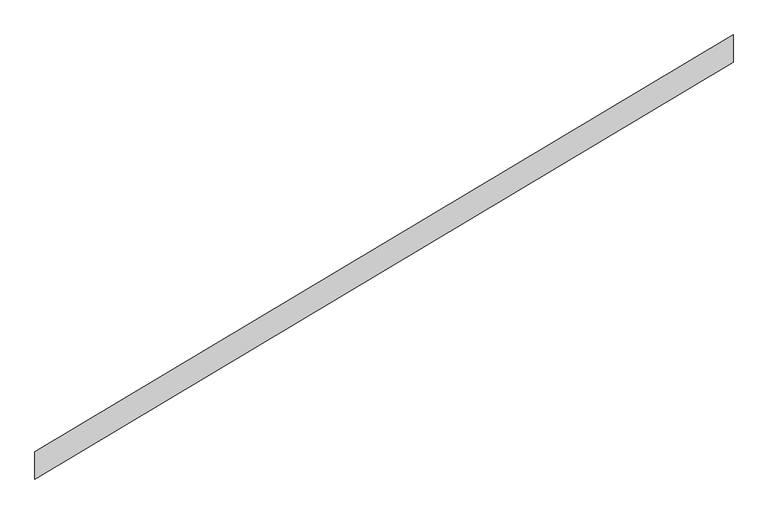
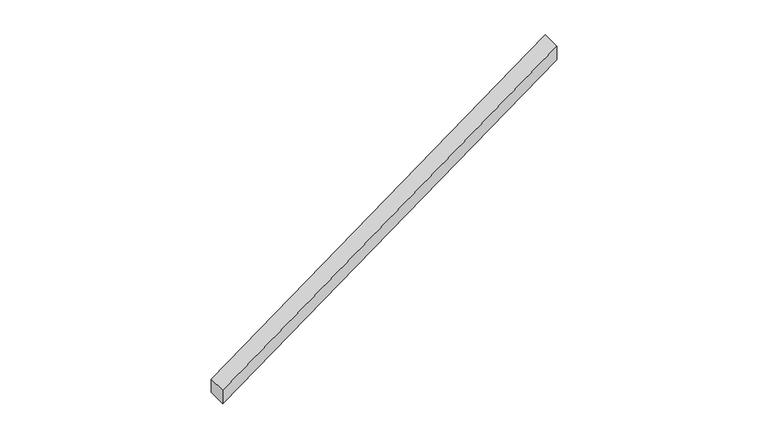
"""IFC4 building model written with IfcOpenShell, lengths in millimetres: proxy geometry, Modelos genéricos 262 : Modelos genéricos 259."""

import ifcopenshell
import ifcopenshell.guid

model = None  # the IFC model being written
_history = None  # IfcOwnerHistory: only IFC2X3 demands one
_inside = {}  # id of a spatial element -> (the spatial element, [elements in it])
_under = {}  # id of a project, library or spatial element -> (it, [spatial elements below it])
_declared = {}  # id of a project -> (the project, [libraries it declares])
_typed = {}  # id of a type object -> (the type object, [elements of that type])
_made_of = {}  # id of a material, layer set ... -> (it, [elements and type objects made of it])


def new_model(schema):
    """Start an empty IFC model of exactly this schema.

    Asked for "IFC4X3", IfcOpenShell would pick the latest addendum, in which some entities
    have other attributes; the version numbers below select the first issue.
    IFC2X3 requires an IfcOwnerHistory on every rooted entity: one is made here for all.
    """
    global model, _history
    if schema == "IFC4X3":
        model = ifcopenshell.file(schema_version=(4, 3, 0, 0))
    else:
        model = ifcopenshell.file(schema=schema)
    _inside.clear()
    _under.clear()
    _declared.clear()
    _typed.clear()
    _made_of.clear()
    _history = None
    if model.schema == "IFC2X3":
        org = make("IfcOrganization", Name="unknown")
        user = make(
            "IfcPersonAndOrganization",
            ThePerson=make("IfcPerson", FamilyName="unknown"),
            TheOrganization=org,
        )
        app = make(
            "IfcApplication",
            ApplicationDeveloper=org,
            Version="unknown",
            ApplicationFullName="unknown",
            ApplicationIdentifier="unknown",
        )
        _history = make(
            "IfcOwnerHistory",
            OwningUser=user,
            OwningApplication=app,
            ChangeAction="ADDED",
            CreationDate=0,
        )
    return model


def make(cls, **values):
    """One entity of the class cls with the attributes given. An attribute that is None is left unset."""
    return model.create_entity(
        cls, **{name: value for name, value in values.items() if value is not None}
    )


def rooted(cls, **values):
    """An entity with a GlobalId (a new one), such as an element, a storey or a relation."""
    return make(cls, GlobalId=ifcopenshell.guid.new(), OwnerHistory=_history, **values)


def si_unit(unit_type, name, prefix=None):
    """IfcSIUnit, for example si_unit("LENGTHUNIT", "METRE", prefix="MILLI")."""
    return make("IfcSIUnit", UnitType=unit_type, Prefix=prefix, Name=name)


def assignment(units):
    """IfcUnitAssignment: the units of a project."""
    return None if units is None else make("IfcUnitAssignment", Units=units)


def point(xyz):
    """IfcCartesianPoint."""
    return None if xyz is None else make("IfcCartesianPoint", Coordinates=xyz)


def direction(xyz):
    """IfcDirection."""
    return None if xyz is None else make("IfcDirection", DirectionRatios=xyz)


def frame(location, z_axis=None, x_axis=None):
    """IfcAxis2Placement3D, a coordinate frame: its origin and axes. An axis left out is left unset."""
    return make(
        "IfcAxis2Placement3D",
        Location=point(location),
        Axis=direction(z_axis),
        RefDirection=direction(x_axis),
    )


def origin():
    """The frame at (0, 0, 0) with its axes left unset."""
    return frame((0.0, 0.0, 0.0))


def place(relative_to, where):
    """IfcLocalPlacement: puts the frame where relative to a parent placement (None: the world)."""
    return make(
        "IfcLocalPlacement", PlacementRelTo=relative_to, RelativePlacement=where
    )


def context(
    kind, dimensions, precision=None, world=None, true_north=None, identifier=None
):
    """IfcGeometricRepresentationContext, for example the 3D "Model" context."""
    return make(
        "IfcGeometricRepresentationContext",
        ContextIdentifier=identifier,
        ContextType=kind,
        CoordinateSpaceDimension=dimensions,
        Precision=precision,
        WorldCoordinateSystem=world,
        TrueNorth=true_north,
    )


def project(units=None, contexts=None):
    """IfcProject with its units and contexts."""
    return rooted(
        "IfcProject",
        Name="project",
        RepresentationContexts=contexts,
        UnitsInContext=assignment(units),
    )


def spatial(cls, under=None, at=None, **own):
    """A site, building, storey or space (cls), placed at a placement, below another one or the project."""
    s = rooted(cls, ObjectPlacement=at, **own)
    if under is not None:
        _under.setdefault(under.id(), (under, []))[1].append(s)
    return s


def polyline(points):
    """IfcPolyline through the points."""
    return make("IfcPolyline", Points=[point(p) for p in points])


def outline(outer, holes=None, kind="AREA"):
    """IfcArbitraryClosedProfileDef: a profile drawn as a closed curve; with holes, ...WithVoids."""
    if holes is None:
        return make("IfcArbitraryClosedProfileDef", ProfileType=kind, OuterCurve=outer)
    return make(
        "IfcArbitraryProfileDefWithVoids",
        ProfileType=kind,
        OuterCurve=outer,
        InnerCurves=holes,
    )


def extrude(swept, where, along, depth):
    """IfcExtrudedAreaSolid: the profile swept, set in the frame where, extruded along a direction by depth."""
    return make(
        "IfcExtrudedAreaSolid",
        SweptArea=swept,
        Position=where,
        ExtrudedDirection=direction(along),
        Depth=depth,
    )


def shape(context_of_items, identifier, shape_type, items):
    """IfcShapeRepresentation: the items that make up one representation, for example the "Body"."""
    return make(
        "IfcShapeRepresentation",
        ContextOfItems=context_of_items,
        RepresentationIdentifier=identifier,
        RepresentationType=shape_type,
        Items=items,
    )


def source(mapping_origin, context_of_items, identifier, shape_type, items):
    """IfcRepresentationMap: a shape defined once, which mapped items show again and again."""
    return make(
        "IfcRepresentationMap",
        MappingOrigin=mapping_origin,
        MappedRepresentation=shape(context_of_items, identifier, shape_type, items),
    )


def transform(
    local_origin,
    x_axis=None,
    y_axis=None,
    z_axis=None,
    scale=None,
    scale2=None,
    scale3=None,
    uniform=True,
):
    """IfcCartesianTransformationOperator3D, or its non-uniform kind. x_axis, y_axis, z_axis: its Axis1, 2, 3."""
    if uniform:
        return make(
            "IfcCartesianTransformationOperator3D",
            Axis1=direction(x_axis),
            Axis2=direction(y_axis),
            LocalOrigin=point(local_origin),
            Scale=scale,
            Axis3=direction(z_axis),
        )
    return make(
        "IfcCartesianTransformationOperator3DnonUniform",
        Axis1=direction(x_axis),
        Axis2=direction(y_axis),
        LocalOrigin=point(local_origin),
        Scale=scale,
        Axis3=direction(z_axis),
        Scale2=scale2,
        Scale3=scale3,
    )


def mapped(mapping_source, mapping_target):
    """IfcMappedItem: shows the shape of a source again, moved by a transform."""
    return make(
        "IfcMappedItem", MappingSource=mapping_source, MappingTarget=mapping_target
    )


def made_of(thing, what):
    """Note that an element or type object is made of a material, layer set ...; save() writes the relation."""
    if what is not None:
        _made_of.setdefault(what.id(), (what, []))[1].append(thing)
    return thing


def element(
    cls,
    number,
    at=None,
    inside=None,
    cuts=None,
    type_object=None,
    material=None,
    context=None,
    identifier="Body",
    shape_type=None,
    held_by="IfcProductDefinitionShape",
    body=None,
    shapes=None,
    **own,
):
    """One element of the class cls, such as IfcWall. Its Tag is "e" and its number.

    at: its placement. inside: the storey or other place that contains it. cuts: it is an
    opening in that element (IfcRelVoidsElement). A single representation is given by context,
    identifier, shape_type and body (its items); several are given by shapes. held_by: the class
    of the entity that holds the representations. save() writes the other relations.
    """
    e = rooted(cls, Tag="e%d" % number, ObjectPlacement=at, **own)
    if body is not None:
        shapes = [shape(context, identifier, shape_type, body)]
    if shapes is not None:
        e.Representation = make(held_by, Representations=shapes)
    if inside is not None:
        _inside.setdefault(inside.id(), (inside, []))[1].append(e)
    if cuts is not None:
        rooted(
            "IfcRelVoidsElement", RelatingBuildingElement=cuts, RelatedOpeningElement=e
        )
    if type_object is not None:
        _typed.setdefault(type_object.id(), (type_object, []))[1].append(e)
    return made_of(e, material)


def aggregate(whole, parts):
    """IfcRelAggregates: a whole, such as a stair, and the parts it consists of."""
    return rooted("IfcRelAggregates", RelatingObject=whole, RelatedObjects=parts)


def save(model, path):
    """Write the relations noted so far, then the file.

    IfcRelAggregates (storeys below a building ...), IfcRelContainedInSpatialStructure (elements
    in a storey), IfcRelDefinesByType, IfcRelAssociatesMaterial and IfcRelDeclares: one each for
    every whole, place, type object, material and project.
    """
    for whole, parts in _under.values():
        aggregate(whole, parts)
    for where, things in _inside.values():
        rooted(
            "IfcRelContainedInSpatialStructure",
            RelatedElements=things,
            RelatingStructure=where,
        )
    for kind, things in _typed.values():
        rooted("IfcRelDefinesByType", RelatedObjects=things, RelatingType=kind)
    for what, things in _made_of.values():
        rooted("IfcRelAssociatesMaterial", RelatedObjects=things, RelatingMaterial=what)
    for by, libraries in _declared.values():
        rooted("IfcRelDeclares", RelatingContext=by, RelatedDefinitions=libraries)
    model.write(path)


def generic_models_f6e6b2fc(model_context):
    return source(origin(), model_context, "Body", "SweptSolid", [
        extrude(outline(polyline([(9303.4472467, -2042.9300824), (12893.4472467, 103.6238165), (12893.4472467, -36.1911366), (9303.4472467, -2182.7450355), (9303.4472467, -2042.9300824)])), frame((0.0, 0.0, 3000.0), z_axis=(0.0, 0.0, 1.0), x_axis=(1.0, 0.0, 0.0)), (0.0, 0.0, 1.0), 100.0),
    ])


if __name__ == "__main__":
    model = new_model("IFC4")
    model_context = context("Model", 3, world=origin())
    ifc_project = project(units=[si_unit("LENGTHUNIT", "METRE", prefix="MILLI")], contexts=[model_context])
    site = spatial("IfcSite", under=ifc_project)
    building = spatial("IfcBuilding", under=site)
    placement = place(None, origin())
    generic_models_shape = generic_models_f6e6b2fc(model_context)
    element("IfcBuildingElementProxy", 1, Name="Modelos genéricos 262 : Modelos genéricos 259", ObjectType="Modelos genéricos 262 : Modelos genéricos 259", at=placement, inside=building, context=model_context, shape_type="MappedRepresentation", body=[
        mapped(generic_models_shape, transform((0.0, 0.0, 0.0), x_axis=(1.0, 0.0, 0.0), y_axis=(0.0, 1.0, 0.0), z_axis=(0.0, 0.0, 1.0))),
    ])
    save(model, "model.ifc")
